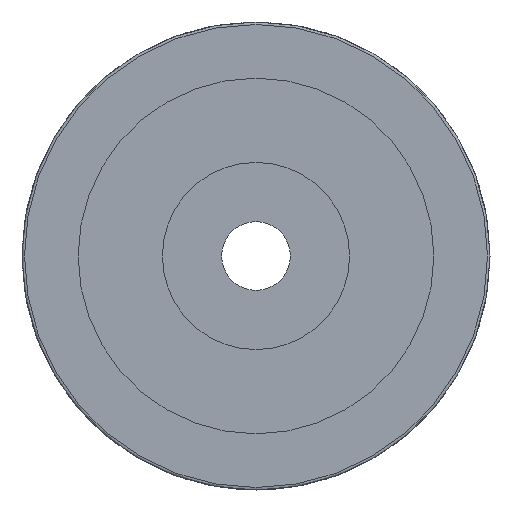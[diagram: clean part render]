
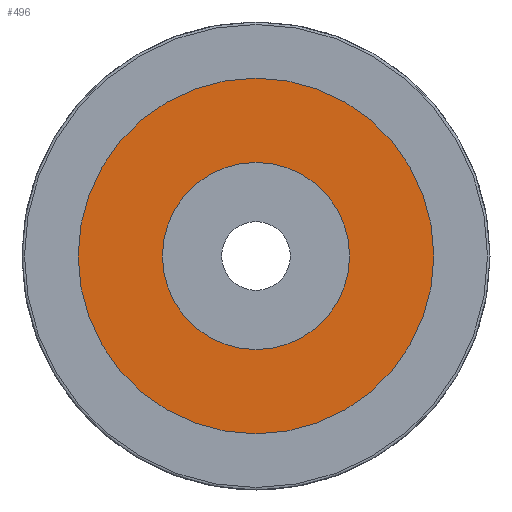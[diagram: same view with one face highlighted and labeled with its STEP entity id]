
A CAD part, left-side view. The second image highlights one B-rep face of the part: STEP entity #496.
In plain terms, the highlighted planar face has unit normal (-1, 0, 0).
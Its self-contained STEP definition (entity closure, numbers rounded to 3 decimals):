
#437=CARTESIAN_POINT('',(-514.306,-488.109,-30.0));
#438=VERTEX_POINT('',#437);
#445=CARTESIAN_POINT('',(-514.306,-488.109,30.0));
#446=VERTEX_POINT('',#445);
#447=CARTESIAN_POINT('',(-514.306,-488.109,0.0));
#448=DIRECTION('',(-1.0,0.0,0.0));
#449=DIRECTION('',(0.0,0.0,-1.0));
#450=AXIS2_PLACEMENT_3D('',#447,#448,#449);
#451=CIRCLE('',#450,30.0);
#452=EDGE_CURVE('',#438,#446,#451,.T.);
#454=CARTESIAN_POINT('',(-514.306,-488.109,0.0));
#455=DIRECTION('',(-1.0,0.0,0.0));
#456=DIRECTION('',(0.0,0.0,-1.0));
#457=AXIS2_PLACEMENT_3D('',#454,#455,#456);
#458=CIRCLE('',#457,30.0);
#459=EDGE_CURVE('',#446,#438,#458,.T.);
#467=CARTESIAN_POINT('',(-514.306,-374.109,114.0));
#468=DIRECTION('',(1.0,0.0,0.0));
#469=DIRECTION('',(0.0,-1.0,0.0));
#470=AXIS2_PLACEMENT_3D('',#467,#468,#469);
#471=PLANE('',#470);
#472=CARTESIAN_POINT('',(-514.306,-488.109,-57.0));
#473=VERTEX_POINT('',#472);
#474=CARTESIAN_POINT('',(-514.306,-488.109,57.0));
#475=VERTEX_POINT('',#474);
#476=CARTESIAN_POINT('',(-514.306,-488.109,0.0));
#477=DIRECTION('',(-1.0,0.0,0.0));
#478=DIRECTION('',(0.0,0.0,-1.0));
#479=AXIS2_PLACEMENT_3D('',#476,#477,#478);
#480=CIRCLE('',#479,57.0);
#481=EDGE_CURVE('',#473,#475,#480,.T.);
#482=ORIENTED_EDGE('',*,*,#481,.T.);
#483=CARTESIAN_POINT('',(-514.306,-488.109,0.0));
#484=DIRECTION('',(-1.0,0.0,0.0));
#485=DIRECTION('',(0.0,0.0,-1.0));
#486=AXIS2_PLACEMENT_3D('',#483,#484,#485);
#487=CIRCLE('',#486,57.0);
#488=EDGE_CURVE('',#475,#473,#487,.T.);
#489=ORIENTED_EDGE('',*,*,#488,.T.);
#490=EDGE_LOOP('',(#482,#489));
#491=FACE_OUTER_BOUND('',#490,.T.);
#492=ORIENTED_EDGE('',*,*,#459,.F.);
#493=ORIENTED_EDGE('',*,*,#452,.F.);
#494=EDGE_LOOP('',(#492,#493));
#495=FACE_BOUND('',#494,.T.);
#496=ADVANCED_FACE('',(#491,#495),#471,.F.);
